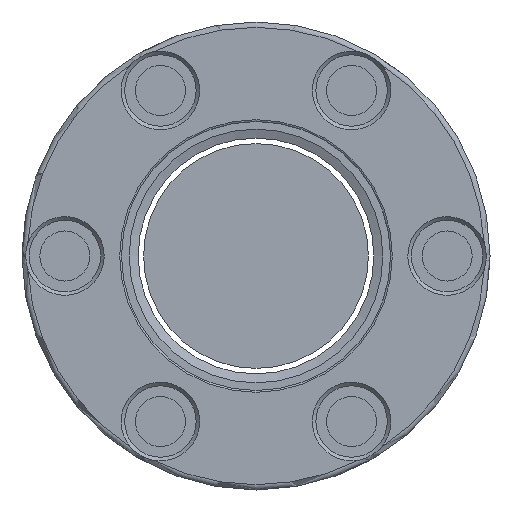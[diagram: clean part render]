
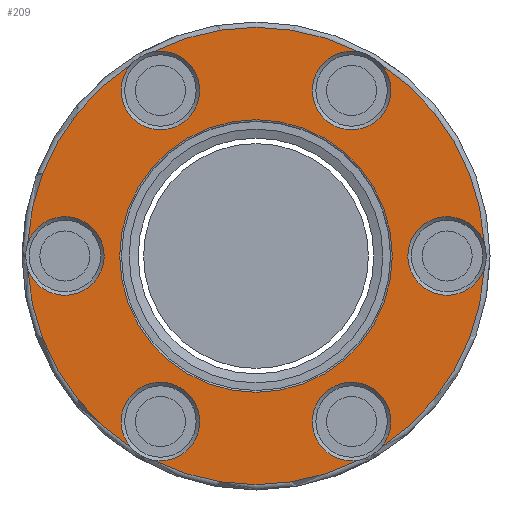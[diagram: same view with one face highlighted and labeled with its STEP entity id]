
A CAD part, front view. The second image highlights one B-rep face of the part: STEP entity #209.
In plain terms, the highlighted planar face has unit normal (0, -1, 0).
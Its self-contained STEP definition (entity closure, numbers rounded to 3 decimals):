
#142=PLANE('',#1032);
#209=ADVANCED_FACE('',(#312,#313),#142,.T.);
#312=FACE_BOUND('',#434,.T.);
#313=FACE_BOUND('',#435,.T.);
#434=EDGE_LOOP('',(#598));
#435=EDGE_LOOP('',(#599,#600,#601,#602,#603,#604,#605,#606,#607,#608,#609,
#610));
#598=ORIENTED_EDGE('',*,*,#833,.T.);
#599=ORIENTED_EDGE('',*,*,#834,.T.);
#600=ORIENTED_EDGE('',*,*,#835,.T.);
#601=ORIENTED_EDGE('',*,*,#836,.T.);
#602=ORIENTED_EDGE('',*,*,#837,.T.);
#603=ORIENTED_EDGE('',*,*,#838,.T.);
#604=ORIENTED_EDGE('',*,*,#839,.T.);
#605=ORIENTED_EDGE('',*,*,#840,.T.);
#606=ORIENTED_EDGE('',*,*,#841,.T.);
#607=ORIENTED_EDGE('',*,*,#842,.T.);
#608=ORIENTED_EDGE('',*,*,#843,.T.);
#609=ORIENTED_EDGE('',*,*,#844,.T.);
#610=ORIENTED_EDGE('',*,*,#845,.T.);
#743=VERTEX_POINT('',#1536);
#744=VERTEX_POINT('',#1538);
#745=VERTEX_POINT('',#1539);
#746=VERTEX_POINT('',#1541);
#747=VERTEX_POINT('',#1543);
#748=VERTEX_POINT('',#1545);
#749=VERTEX_POINT('',#1547);
#750=VERTEX_POINT('',#1549);
#751=VERTEX_POINT('',#1551);
#752=VERTEX_POINT('',#1553);
#753=VERTEX_POINT('',#1555);
#754=VERTEX_POINT('',#1557);
#755=VERTEX_POINT('',#1559);
#833=EDGE_CURVE('',#743,#743,#913,.T.);
#834=EDGE_CURVE('',#744,#745,#914,.T.);
#835=EDGE_CURVE('',#745,#746,#915,.T.);
#836=EDGE_CURVE('',#746,#747,#916,.T.);
#837=EDGE_CURVE('',#747,#748,#917,.T.);
#838=EDGE_CURVE('',#748,#749,#918,.T.);
#839=EDGE_CURVE('',#749,#750,#919,.T.);
#840=EDGE_CURVE('',#750,#751,#920,.T.);
#841=EDGE_CURVE('',#751,#752,#921,.T.);
#842=EDGE_CURVE('',#752,#753,#922,.T.);
#843=EDGE_CURVE('',#753,#754,#923,.T.);
#844=EDGE_CURVE('',#754,#755,#924,.T.);
#845=EDGE_CURVE('',#755,#744,#925,.T.);
#913=CIRCLE('',#1019,38.15);
#914=CIRCLE('',#1020,64.);
#915=CIRCLE('',#1021,11.);
#916=CIRCLE('',#1022,64.);
#917=CIRCLE('',#1023,11.);
#918=CIRCLE('',#1024,64.);
#919=CIRCLE('',#1025,11.);
#920=CIRCLE('',#1026,64.);
#921=CIRCLE('',#1027,11.);
#922=CIRCLE('',#1028,64.);
#923=CIRCLE('',#1029,11.);
#924=CIRCLE('',#1030,64.);
#925=CIRCLE('',#1031,11.);
#1019=AXIS2_PLACEMENT_3D('',#1535,#1245,#1246);
#1020=AXIS2_PLACEMENT_3D('',#1537,#1247,#1248);
#1021=AXIS2_PLACEMENT_3D('',#1540,#1249,#1250);
#1022=AXIS2_PLACEMENT_3D('',#1542,#1251,#1252);
#1023=AXIS2_PLACEMENT_3D('',#1544,#1253,#1254);
#1024=AXIS2_PLACEMENT_3D('',#1546,#1255,#1256);
#1025=AXIS2_PLACEMENT_3D('',#1548,#1257,#1258);
#1026=AXIS2_PLACEMENT_3D('',#1550,#1259,#1260);
#1027=AXIS2_PLACEMENT_3D('',#1552,#1261,#1262);
#1028=AXIS2_PLACEMENT_3D('',#1554,#1263,#1264);
#1029=AXIS2_PLACEMENT_3D('',#1556,#1265,#1266);
#1030=AXIS2_PLACEMENT_3D('',#1558,#1267,#1268);
#1031=AXIS2_PLACEMENT_3D('',#1560,#1269,#1270);
#1032=AXIS2_PLACEMENT_3D('',#1561,#1271,#1272);
#1245=DIRECTION('',(0.,1.,0.));
#1246=DIRECTION('',(0.,0.,-1.));
#1247=DIRECTION('',(0.,-1.,0.));
#1248=DIRECTION('',(0.,0.,-1.));
#1249=DIRECTION('',(0.,1.,0.));
#1250=DIRECTION('',(0.,0.,-1.));
#1251=DIRECTION('',(0.,-1.,0.));
#1252=DIRECTION('',(0.,0.,-1.));
#1253=DIRECTION('',(0.,1.,0.));
#1254=DIRECTION('',(0.,0.,-1.));
#1255=DIRECTION('',(0.,-1.,0.));
#1256=DIRECTION('',(0.,0.,-1.));
#1257=DIRECTION('',(0.,1.,0.));
#1258=DIRECTION('',(0.,0.,-1.));
#1259=DIRECTION('',(0.,-1.,0.));
#1260=DIRECTION('',(0.,0.,-1.));
#1261=DIRECTION('',(0.,1.,0.));
#1262=DIRECTION('',(0.,0.,-1.));
#1263=DIRECTION('',(0.,-1.,0.));
#1264=DIRECTION('',(0.,0.,-1.));
#1265=DIRECTION('',(0.,1.,0.));
#1266=DIRECTION('',(0.,0.,-1.));
#1267=DIRECTION('',(0.,-1.,0.));
#1268=DIRECTION('',(0.,0.,-1.));
#1269=DIRECTION('',(0.,1.,0.));
#1270=DIRECTION('',(0.,0.,-1.));
#1271=DIRECTION('',(0.,-1.,0.));
#1272=DIRECTION('',(0.,0.,-1.));
#1535=CARTESIAN_POINT('',(0.,0.,0.));
#1536=CARTESIAN_POINT('',(0.,0.,-38.15));
#1537=CARTESIAN_POINT('',(0.,0.,0.));
#1538=CARTESIAN_POINT('',(-35.054,0.,53.546));
#1539=CARTESIAN_POINT('',(-63.9,0.,3.585));
#1540=CARTESIAN_POINT('',(-53.5,0.,0.));
#1541=CARTESIAN_POINT('',(-63.9,0.,-3.585));
#1542=CARTESIAN_POINT('',(0.,0.,0.));
#1543=CARTESIAN_POINT('',(-35.054,0.,-53.546));
#1544=CARTESIAN_POINT('',(-26.75,0.,-46.332));
#1545=CARTESIAN_POINT('',(-28.845,0.,-57.131));
#1546=CARTESIAN_POINT('',(0.,0.,0.));
#1547=CARTESIAN_POINT('',(28.845,0.,-57.131));
#1548=CARTESIAN_POINT('',(26.75,0.,-46.332));
#1549=CARTESIAN_POINT('',(35.054,0.,-53.546));
#1550=CARTESIAN_POINT('',(0.,0.,0.));
#1551=CARTESIAN_POINT('',(63.9,0.,-3.585));
#1552=CARTESIAN_POINT('',(53.5,0.,0.));
#1553=CARTESIAN_POINT('',(63.9,0.,3.585));
#1554=CARTESIAN_POINT('',(0.,0.,0.));
#1555=CARTESIAN_POINT('',(35.054,0.,53.546));
#1556=CARTESIAN_POINT('',(26.75,0.,46.332));
#1557=CARTESIAN_POINT('',(28.845,0.,57.131));
#1558=CARTESIAN_POINT('',(0.,0.,0.));
#1559=CARTESIAN_POINT('',(-28.845,0.,57.131));
#1560=CARTESIAN_POINT('',(-26.75,0.,46.332));
#1561=CARTESIAN_POINT('',(0.,0.,0.));
